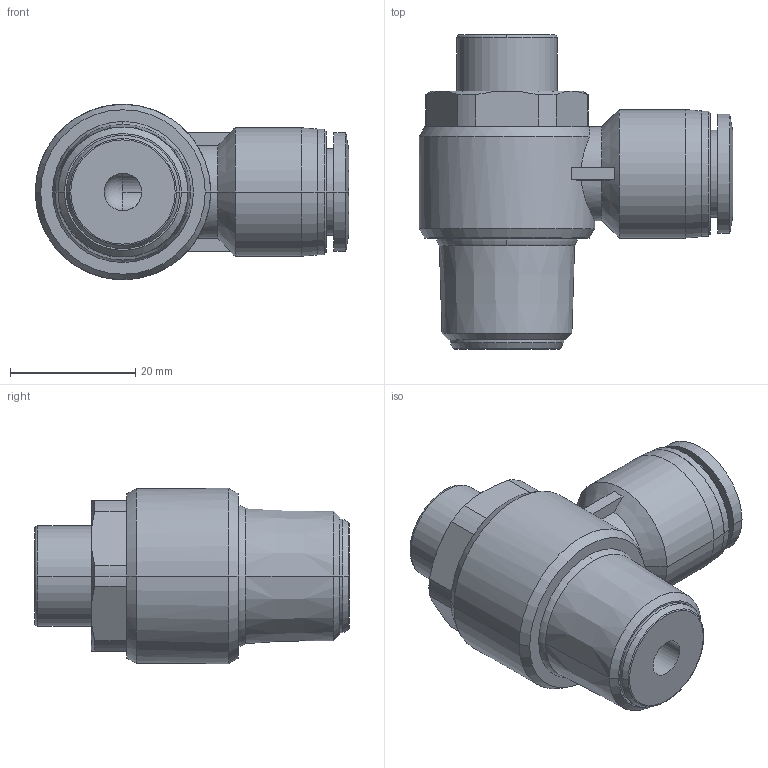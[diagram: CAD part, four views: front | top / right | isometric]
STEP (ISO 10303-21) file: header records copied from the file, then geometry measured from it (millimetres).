
FILE_DESCRIPTION (( 'STEP AP203' ), '1' );
FILE_NAME ('SCLF12-04.STEP', '2020-05-13T17:33:53', ( '' ), ( '' ), 'SwSTEP 2.0', 'SolidWorks 2019', '' );
FILE_SCHEMA (( 'CONFIG_CONTROL_DESIGN' ));
Length unit declared in the file: millimetre
Products named in the file (1): SCLF12-04
Bounding box: 50.05 x 50.2 x 28 mm (x, y, z)
Volume: 23732.8 mm3; surface area: 8840.9 mm2
Topology: 1 solids, 1 shells, 135 faces, 322 edges, 197 vertices
Faces by surface type: plane 51, cylinder 43, cone 32, torus 6, bspline 2, sphere 1
Entity records: 4148 total; most frequent: CARTESIAN_POINT 927, DIRECTION 708, ORIENTED_EDGE 638, EDGE_CURVE 319, AXIS2_PLACEMENT_3D 287, VERTEX_POINT 197, CIRCLE 153, EDGE_LOOP 148
